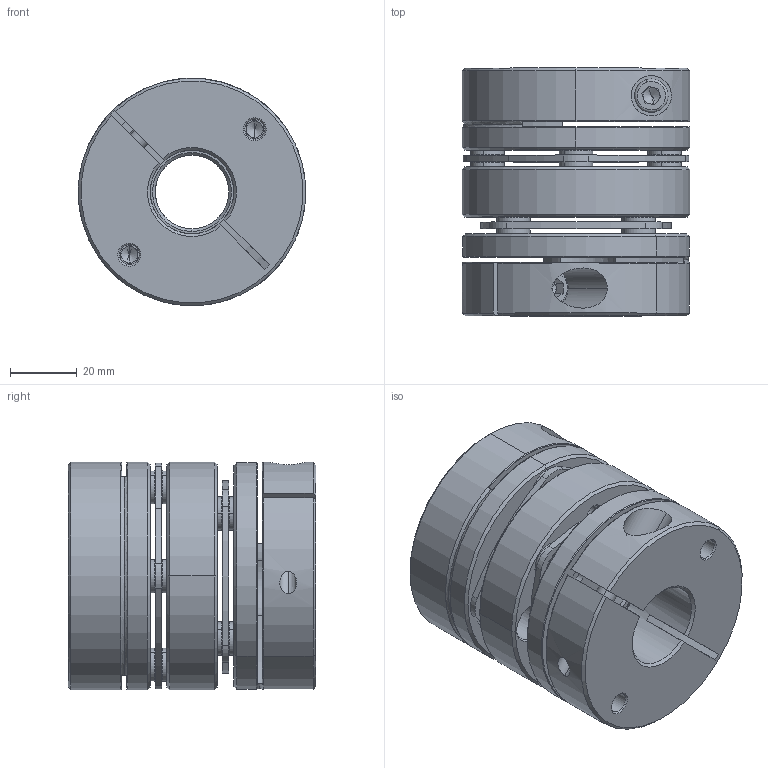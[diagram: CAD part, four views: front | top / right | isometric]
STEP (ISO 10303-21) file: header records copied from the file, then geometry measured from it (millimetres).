
FILE_DESCRIPTION (( 'STEP AP203' ), '1' );
FILE_NAME ('LD2-D68-22-25.STEP', '2021-10-26T08:39:08', ( '' ), ( '' ), 'SwSTEP 2.0', 'SolidWorks 2018', '' );
FILE_SCHEMA (( 'CONFIG_CONTROL_DESIGN' ));
Length unit declared in the file: millimetre
Products named in the file (2): 錨璃102^LD2-D68; LD2-D68-22-25
Assembly tree (1 placements, depth 2):
  LD2-D68-22-25
    錨璃102^LD2-D68
Bounding box: 68 x 74 x 68 mm (x, y, z)
Volume: 184242.6 mm3; surface area: 64186.9 mm2
Topology: 1 solids, 27 shells, 732 faces, 1696 edges, 1032 vertices
Faces by surface type: cylinder 256, cone 226, plane 220, torus 30
Entity records: 21398 total; most frequent: DIRECTION 3974, CARTESIAN_POINT 3912, ORIENTED_EDGE 3344, EDGE_CURVE 1672, AXIS2_PLACEMENT_3D 1614, VERTEX_POINT 1032, CIRCLE 878, EDGE_LOOP 868
